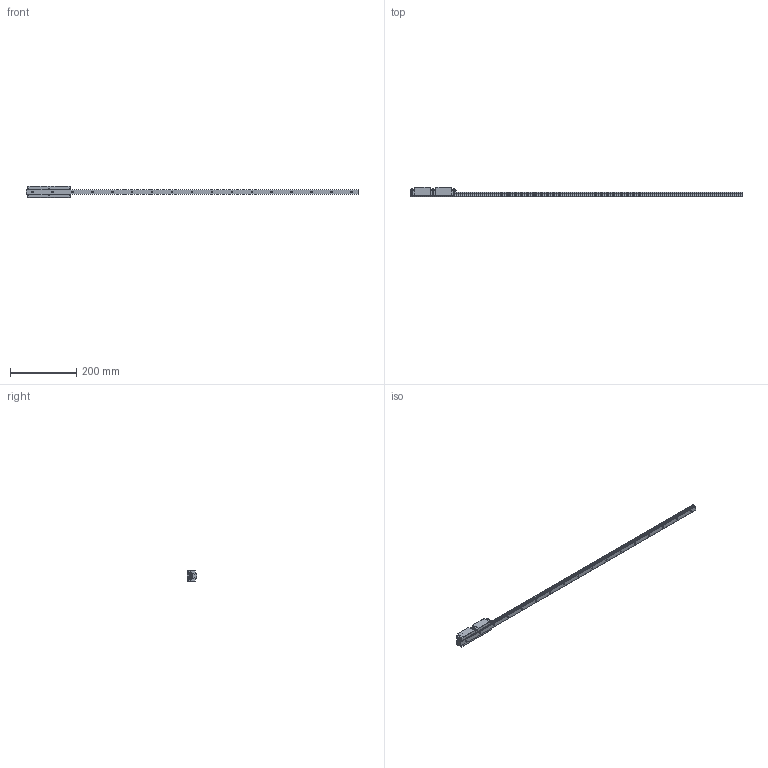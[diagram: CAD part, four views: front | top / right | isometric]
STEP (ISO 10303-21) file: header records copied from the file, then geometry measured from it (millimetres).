
FILE_DESCRIPTION( ( 'STEP AP203' ), '1' );
FILE_NAME( 'p:/temp/worker_978/temp/exporttempdir_4336_69_PvJPc/format_0/SME15SA2SSF0+R1000-20_20N_(0_69.55_0_01G-M4).stp', '2020-07-22T14:20:18', ( 'License CC BY-ND 4.0' ), ( 'CADENAS' ), ' ', 'PARTsolutions', ' ' );
FILE_SCHEMA( ( 'CONFIG_CONTROL_DESIGN' ) );
Length unit declared in the file: millimetre
Products named in the file (5): SME15SA2SSF0+R1000-20/20N_(0_69.55_0_01G-M4); _SME15EA1000-20/20N (2SSFCR1G-M4); _SME15SASSF0N (); _SME-ES15; _G-M4
Assembly tree (9 placements, depth 2):
  SME15SA2SSF0+R1000-20/20N_(0_69.55_0_01G-M4)
    _SME15EA1000-20/20N (2SSFCR1G-M4)
    _SME15SASSF0N ()  x2
    _SME-ES15  x4
    _G-M4  x2
Bounding box: 1000 x 28 x 34 mm (x, y, z)
Volume: 251005.4 mm3; surface area: 86314.9 mm2
Topology: 9 solids, 9 shells, 465 faces, 1194 edges, 788 vertices
Faces by surface type: plane 285, cylinder 142, cone 34, sphere 4
Full cylindrical faces by diameter (mm): 3.242 x16, 4 x2, 4.5 x17, 5.5 x8, 6.5 x12, 7.5 x17
Entity records: 6384 total; most frequent: DIRECTION 1094, CARTESIAN_POINT 1049, ORIENTED_EDGE 932, EDGE_CURVE 466, AXIS2_PLACEMENT_3D 400, VERTEX_POINT 355, EDGE_LOOP 344, LINE 294
